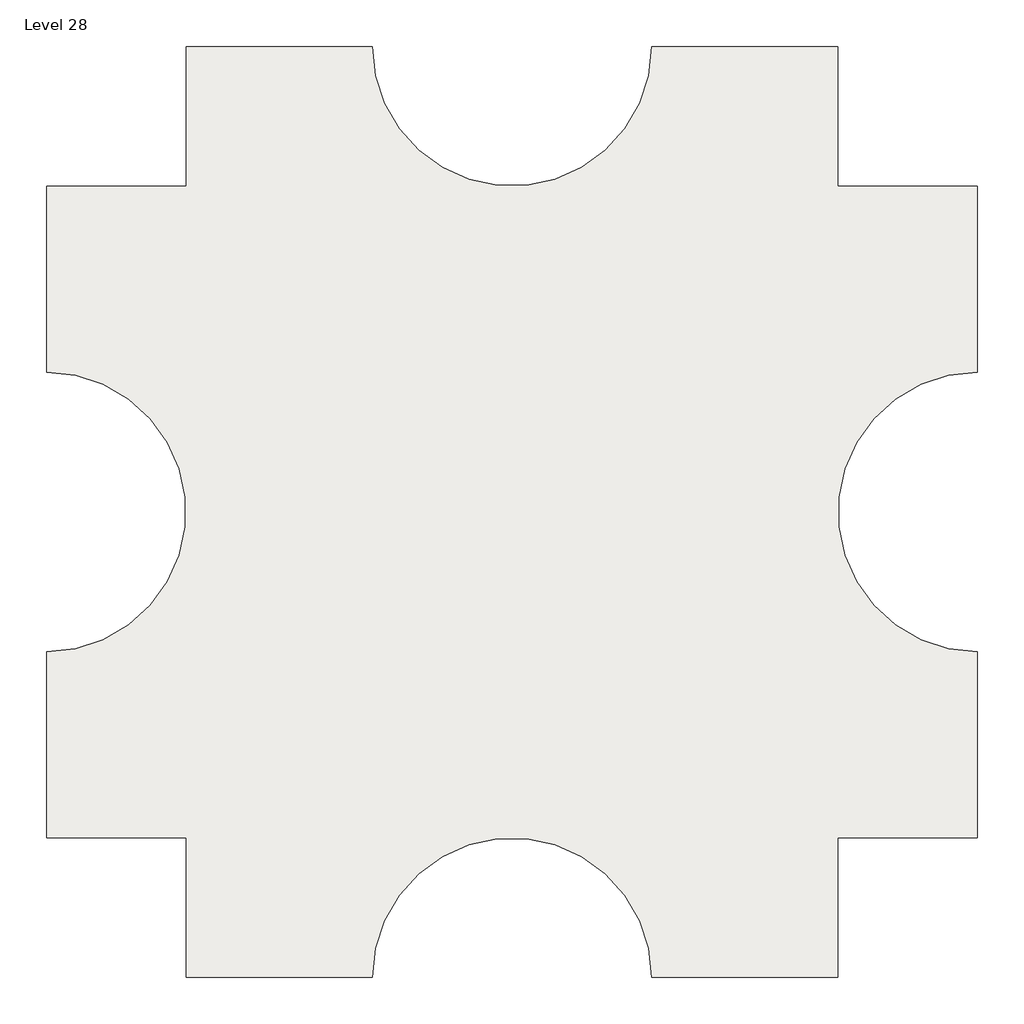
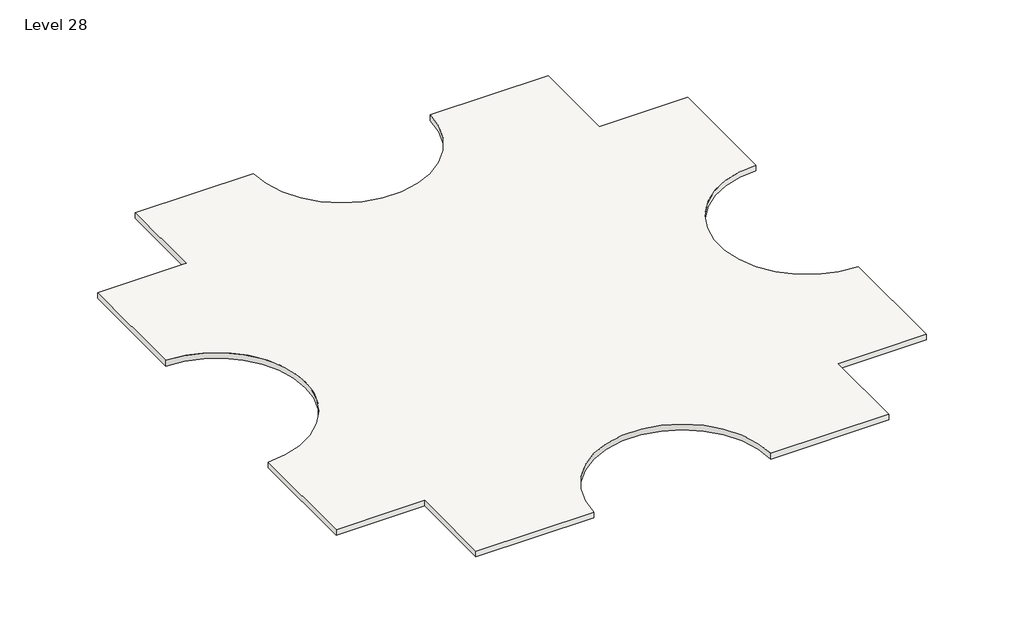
# One storey: 2 slabs.
"""IFC4 building model written with IfcOpenShell, lengths in millimetres."""

import ifcopenshell
import ifcopenshell.guid

model = None  # the IFC model being written
_history = None  # IfcOwnerHistory: only IFC2X3 demands one
_inside = {}  # id of a spatial element -> (the spatial element, [elements in it])
_under = {}  # id of a project, library or spatial element -> (it, [spatial elements below it])
_declared = {}  # id of a project -> (the project, [libraries it declares])
_typed = {}  # id of a type object -> (the type object, [elements of that type])
_made_of = {}  # id of a material, layer set ... -> (it, [elements and type objects made of it])


def new_model(schema):
    """Start an empty IFC model of exactly this schema.

    Asked for "IFC4X3", IfcOpenShell would pick the latest addendum, in which some entities
    have other attributes; the version numbers below select the first issue.
    IFC2X3 requires an IfcOwnerHistory on every rooted entity: one is made here for all.
    """
    global model, _history
    if schema == "IFC4X3":
        model = ifcopenshell.file(schema_version=(4, 3, 0, 0))
    else:
        model = ifcopenshell.file(schema=schema)
    _inside.clear()
    _under.clear()
    _declared.clear()
    _typed.clear()
    _made_of.clear()
    _history = None
    if model.schema == "IFC2X3":
        org = make("IfcOrganization", Name="unknown")
        user = make(
            "IfcPersonAndOrganization",
            ThePerson=make("IfcPerson", FamilyName="unknown"),
            TheOrganization=org,
        )
        app = make(
            "IfcApplication",
            ApplicationDeveloper=org,
            Version="unknown",
            ApplicationFullName="unknown",
            ApplicationIdentifier="unknown",
        )
        _history = make(
            "IfcOwnerHistory",
            OwningUser=user,
            OwningApplication=app,
            ChangeAction="ADDED",
            CreationDate=0,
        )
    return model


def make(cls, **values):
    """One entity of the class cls with the attributes given. An attribute that is None is left unset."""
    return model.create_entity(
        cls, **{name: value for name, value in values.items() if value is not None}
    )


def rooted(cls, **values):
    """An entity with a GlobalId (a new one), such as an element, a storey or a relation."""
    return make(cls, GlobalId=ifcopenshell.guid.new(), OwnerHistory=_history, **values)


def si_unit(unit_type, name, prefix=None):
    """IfcSIUnit, for example si_unit("LENGTHUNIT", "METRE", prefix="MILLI")."""
    return make("IfcSIUnit", UnitType=unit_type, Prefix=prefix, Name=name)


def assignment(units):
    """IfcUnitAssignment: the units of a project."""
    return None if units is None else make("IfcUnitAssignment", Units=units)


def point(xyz):
    """IfcCartesianPoint."""
    return None if xyz is None else make("IfcCartesianPoint", Coordinates=xyz)


def direction(xyz):
    """IfcDirection."""
    return None if xyz is None else make("IfcDirection", DirectionRatios=xyz)


def frame(location, z_axis=None, x_axis=None):
    """IfcAxis2Placement3D, a coordinate frame: its origin and axes. An axis left out is left unset."""
    return make(
        "IfcAxis2Placement3D",
        Location=point(location),
        Axis=direction(z_axis),
        RefDirection=direction(x_axis),
    )


def frame_2d(location, x_axis=None):
    """IfcAxis2Placement2D, a coordinate frame in the plane: its origin and x axis."""
    return make(
        "IfcAxis2Placement2D", Location=point(location), RefDirection=direction(x_axis)
    )


def origin():
    """The frame at (0, 0, 0) with its axes left unset."""
    return frame((0.0, 0.0, 0.0))


def place(relative_to, where):
    """IfcLocalPlacement: puts the frame where relative to a parent placement (None: the world)."""
    return make(
        "IfcLocalPlacement", PlacementRelTo=relative_to, RelativePlacement=where
    )


def context(
    kind, dimensions, precision=None, world=None, true_north=None, identifier=None
):
    """IfcGeometricRepresentationContext, for example the 3D "Model" context."""
    return make(
        "IfcGeometricRepresentationContext",
        ContextIdentifier=identifier,
        ContextType=kind,
        CoordinateSpaceDimension=dimensions,
        Precision=precision,
        WorldCoordinateSystem=world,
        TrueNorth=true_north,
    )


def project(units=None, contexts=None):
    """IfcProject with its units and contexts."""
    return rooted(
        "IfcProject",
        Name="project",
        RepresentationContexts=contexts,
        UnitsInContext=assignment(units),
    )


def spatial(cls, under=None, at=None, **own):
    """A site, building, storey or space (cls), placed at a placement, below another one or the project."""
    s = rooted(cls, ObjectPlacement=at, **own)
    if under is not None:
        _under.setdefault(under.id(), (under, []))[1].append(s)
    return s


def polyline(points):
    """IfcPolyline through the points."""
    return make("IfcPolyline", Points=[point(p) for p in points])


def circle_curve(where, radius):
    """IfcCircle in the frame where."""
    return make("IfcCircle", Position=where, Radius=radius)


def trimmed(basis, trim1, trim2, sense, master):
    """IfcTrimmedCurve: the piece of a basis curve between two trims."""
    return make(
        "IfcTrimmedCurve",
        BasisCurve=basis,
        Trim1=trim1,
        Trim2=trim2,
        SenseAgreement=sense,
        MasterRepresentation=master,
    )


def segment(curve, same_sense, transition):
    """IfcCompositeCurveSegment."""
    return make(
        "IfcCompositeCurveSegment",
        Transition=transition,
        SameSense=same_sense,
        ParentCurve=curve,
    )


def composite_curve(segments, self_intersect=None):
    """IfcCompositeCurve: segments joined end to end."""
    return make("IfcCompositeCurve", Segments=segments, SelfIntersect=self_intersect)


def outline(outer, holes=None, kind="AREA"):
    """IfcArbitraryClosedProfileDef: a profile drawn as a closed curve; with holes, ...WithVoids."""
    if holes is None:
        return make("IfcArbitraryClosedProfileDef", ProfileType=kind, OuterCurve=outer)
    return make(
        "IfcArbitraryProfileDefWithVoids",
        ProfileType=kind,
        OuterCurve=outer,
        InnerCurves=holes,
    )


def extrude(swept, where, along, depth):
    """IfcExtrudedAreaSolid: the profile swept, set in the frame where, extruded along a direction by depth."""
    return make(
        "IfcExtrudedAreaSolid",
        SweptArea=swept,
        Position=where,
        ExtrudedDirection=direction(along),
        Depth=depth,
    )


def shape(context_of_items, identifier, shape_type, items):
    """IfcShapeRepresentation: the items that make up one representation, for example the "Body"."""
    return make(
        "IfcShapeRepresentation",
        ContextOfItems=context_of_items,
        RepresentationIdentifier=identifier,
        RepresentationType=shape_type,
        Items=items,
    )


def made_of(thing, what):
    """Note that an element or type object is made of a material, layer set ...; save() writes the relation."""
    if what is not None:
        _made_of.setdefault(what.id(), (what, []))[1].append(thing)
    return thing


def element(
    cls,
    number,
    at=None,
    inside=None,
    cuts=None,
    type_object=None,
    material=None,
    context=None,
    identifier="Body",
    shape_type=None,
    held_by="IfcProductDefinitionShape",
    body=None,
    shapes=None,
    **own,
):
    """One element of the class cls, such as IfcWall. Its Tag is "e" and its number.

    at: its placement. inside: the storey or other place that contains it. cuts: it is an
    opening in that element (IfcRelVoidsElement). A single representation is given by context,
    identifier, shape_type and body (its items); several are given by shapes. held_by: the class
    of the entity that holds the representations. save() writes the other relations.
    """
    e = rooted(cls, Tag="e%d" % number, ObjectPlacement=at, **own)
    if body is not None:
        shapes = [shape(context, identifier, shape_type, body)]
    if shapes is not None:
        e.Representation = make(held_by, Representations=shapes)
    if inside is not None:
        _inside.setdefault(inside.id(), (inside, []))[1].append(e)
    if cuts is not None:
        rooted(
            "IfcRelVoidsElement", RelatingBuildingElement=cuts, RelatedOpeningElement=e
        )
    if type_object is not None:
        _typed.setdefault(type_object.id(), (type_object, []))[1].append(e)
    return made_of(e, material)


def aggregate(whole, parts):
    """IfcRelAggregates: a whole, such as a stair, and the parts it consists of."""
    return rooted("IfcRelAggregates", RelatingObject=whole, RelatedObjects=parts)


def save(model, path):
    """Write the relations noted so far, then the file.

    IfcRelAggregates (storeys below a building ...), IfcRelContainedInSpatialStructure (elements
    in a storey), IfcRelDefinesByType, IfcRelAssociatesMaterial and IfcRelDeclares: one each for
    every whole, place, type object, material and project.
    """
    for whole, parts in _under.values():
        aggregate(whole, parts)
    for where, things in _inside.values():
        rooted(
            "IfcRelContainedInSpatialStructure",
            RelatedElements=things,
            RelatingStructure=where,
        )
    for kind, things in _typed.values():
        rooted("IfcRelDefinesByType", RelatedObjects=things, RelatingType=kind)
    for what, things in _made_of.values():
        rooted("IfcRelAssociatesMaterial", RelatedObjects=things, RelatingMaterial=what)
    for by, libraries in _declared.values():
        rooted("IfcRelDeclares", RelatingContext=by, RelatedDefinitions=libraries)
    model.write(path)


model = new_model("IFC4")

# Units and contexts
model_context = context("Model", 3, world=origin())
ifc_project = project(units=[si_unit("LENGTHUNIT", "METRE", prefix="MILLI")], contexts=[model_context])

# Site, building, storey
site = spatial("IfcSite", under=ifc_project)
building = spatial("IfcBuilding", under=site)
storey = spatial("IfcBuildingStorey", under=building, Name="Level 28", Elevation=82296.0)

# Slabs
placement = place(None, origin())
element("IfcSlab", 1, ObjectType="Generic - 12\"", at=placement, inside=storey, context=model_context, shape_type="SweptSolid", body=[
    extrude(outline(composite_curve([segment(polyline([(-7150.3629456, 4479.6634547), (-7150.3629456, 9051.6634547), (-1054.3629456, 9051.6634547)]), True, "CONTINUOUS"), segment(trimmed(circle_curve(frame_2d((3517.6370544, 9051.6634547)), 4572.0), [point((-1054.3629456, 9051.6634547))], [point((8089.6370544, 9051.6634547))], True, "CARTESIAN"), True, "CONTINUOUS"), segment(polyline([(8089.6370544, 9051.6634547), (14185.6370544, 9051.6634547), (14185.6370544, 4479.6634547), (18757.6370544, 4479.6634547), (18757.6370544, -1616.3365453)]), True, "CONTINUOUS"), segment(trimmed(circle_curve(frame_2d((18757.6370544, -6188.3365453)), 4572.0), [point((18757.6370544, -1616.3365453))], [point((18757.6370544, -10760.3365453))], True, "CARTESIAN"), True, "CONTINUOUS"), segment(polyline([(18757.6370544, -10760.3365453), (18757.6370544, -16856.3365453), (14185.6370544, -16856.3365453), (14185.6370544, -21428.3365453), (8089.6370544, -21428.3365453)]), True, "CONTINUOUS"), segment(trimmed(circle_curve(frame_2d((3517.6370544, -21428.3365453)), 4572.0), [point((8089.6370544, -21428.3365453))], [point((-1054.3629456, -21428.3365453))], True, "CARTESIAN"), True, "CONTINUOUS"), segment(polyline([(-1054.3629456, -21428.3365453), (-7150.3629456, -21428.3365453), (-7150.3629456, -16856.3365453), (-11722.3629456, -16856.3365453), (-11722.3629456, -10760.3365453)]), True, "CONTINUOUS"), segment(trimmed(circle_curve(frame_2d((-11722.3629456, -6188.3365453)), 4572.0), [point((-11722.3629456, -10760.3365453))], [point((-11722.3629456, -1616.3365453))], True, "CARTESIAN"), True, "CONTINUOUS"), segment(polyline([(-11722.3629456, -1616.3365453), (-11722.3629456, 4479.6634547), (-7150.3629456, 4479.6634547)]), True, "CONTINUOUS")], self_intersect=False)), frame((0.0, 0.0, 81991.2), z_axis=(0.0, 0.0, 1.0), x_axis=(1.0, 0.0, 0.0)), (0.0, 0.0, 1.0), 304.8),
])
element("IfcSlab", 2, ObjectType="Generic - 12\"", at=placement, inside=storey, context=model_context, shape_type="SweptSolid", body=[
    extrude(outline(composite_curve([segment(polyline([(-7150.3629456, 4479.6634547), (-7150.3629456, 9051.6634547), (-1054.3629456, 9051.6634547)]), True, "CONTINUOUS"), segment(trimmed(circle_curve(frame_2d((3517.6370544, 9051.6634547)), 4572.0), [point((-1054.3629456, 9051.6634547))], [point((8089.6370544, 9051.6634547))], True, "CARTESIAN"), True, "CONTINUOUS"), segment(polyline([(8089.6370544, 9051.6634547), (14185.6370544, 9051.6634547), (14185.6370544, 4479.6634547), (18757.6370544, 4479.6634547), (18757.6370544, -1616.3365453)]), True, "CONTINUOUS"), segment(trimmed(circle_curve(frame_2d((18757.6370544, -6188.3365453)), 4572.0), [point((18757.6370544, -1616.3365453))], [point((18757.6370544, -10760.3365453))], True, "CARTESIAN"), True, "CONTINUOUS"), segment(polyline([(18757.6370544, -10760.3365453), (18757.6370544, -16856.3365453), (14185.6370544, -16856.3365453), (14185.6370544, -21428.3365453), (8089.6370544, -21428.3365453)]), True, "CONTINUOUS"), segment(trimmed(circle_curve(frame_2d((3517.6370544, -21428.3365453)), 4572.0), [point((8089.6370544, -21428.3365453))], [point((-1054.3629456, -21428.3365453))], True, "CARTESIAN"), True, "CONTINUOUS"), segment(polyline([(-1054.3629456, -21428.3365453), (-7150.3629456, -21428.3365453), (-7150.3629456, -16856.3365453), (-11722.3629456, -16856.3365453), (-11722.3629456, -10760.3365453)]), True, "CONTINUOUS"), segment(trimmed(circle_curve(frame_2d((-11722.3629456, -6188.3365453)), 4572.0), [point((-11722.3629456, -10760.3365453))], [point((-11722.3629456, -1616.3365453))], True, "CARTESIAN"), True, "CONTINUOUS"), segment(polyline([(-11722.3629456, -1616.3365453), (-11722.3629456, 4479.6634547), (-7150.3629456, 4479.6634547)]), True, "CONTINUOUS")], self_intersect=False)), frame((0.0, 0.0, 81991.2), z_axis=(0.0, 0.0, 1.0), x_axis=(1.0, 0.0, 0.0)), (0.0, 0.0, 1.0), 304.8),
])

save(model, "model.ifc")
